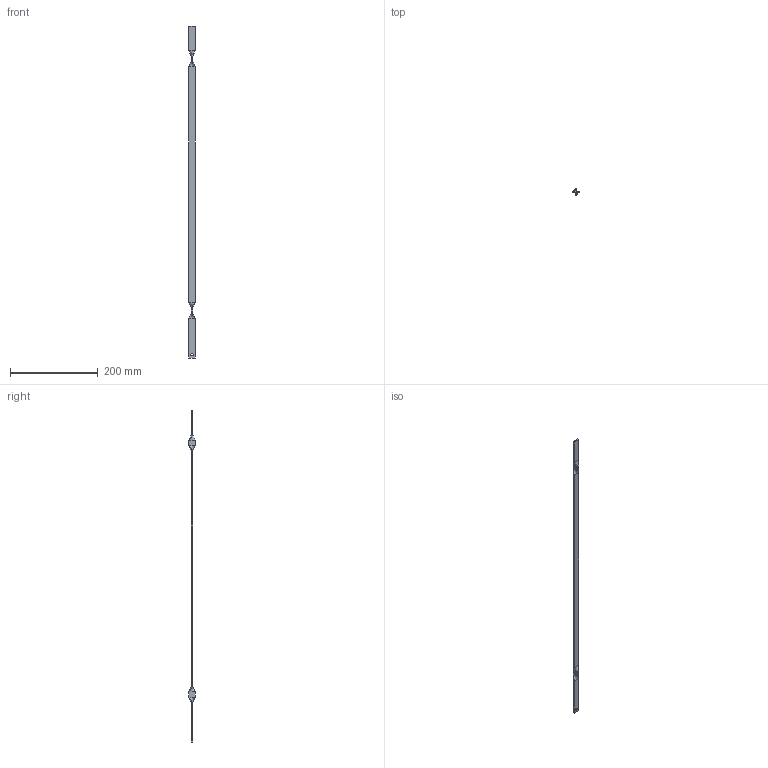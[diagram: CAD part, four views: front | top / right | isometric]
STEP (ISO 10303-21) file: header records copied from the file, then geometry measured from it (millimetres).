
FILE_DESCRIPTION (( 'STEP AP214' ), '1' );
FILE_NAME ('P290-751.STEP', '2012-02-02T15:52:20', ( 'Techniczny' ), ( 'RST Roztocze' ), 'SwSTEP 2.0', 'SolidWorks 2010', '' );
FILE_SCHEMA (( 'AUTOMOTIVE_DESIGN' ));
Length unit declared in the file: millimetre
Products named in the file (1): P290-751
Bounding box: 14 x 14 x 758.5 mm (x, y, z)
Volume: 31113.7 mm3; surface area: 25679.9 mm2
Topology: 1 solids, 1 shells, 40 faces, 82 edges, 44 vertices
Faces by surface type: plane 22, bspline 16, cylinder 2
Entity records: 1172 total; most frequent: CARTESIAN_POINT 363, ORIENTED_EDGE 164, DIRECTION 132, EDGE_CURVE 82, VECTOR 74, LINE 74, VERTEX_POINT 44, EDGE_LOOP 42
